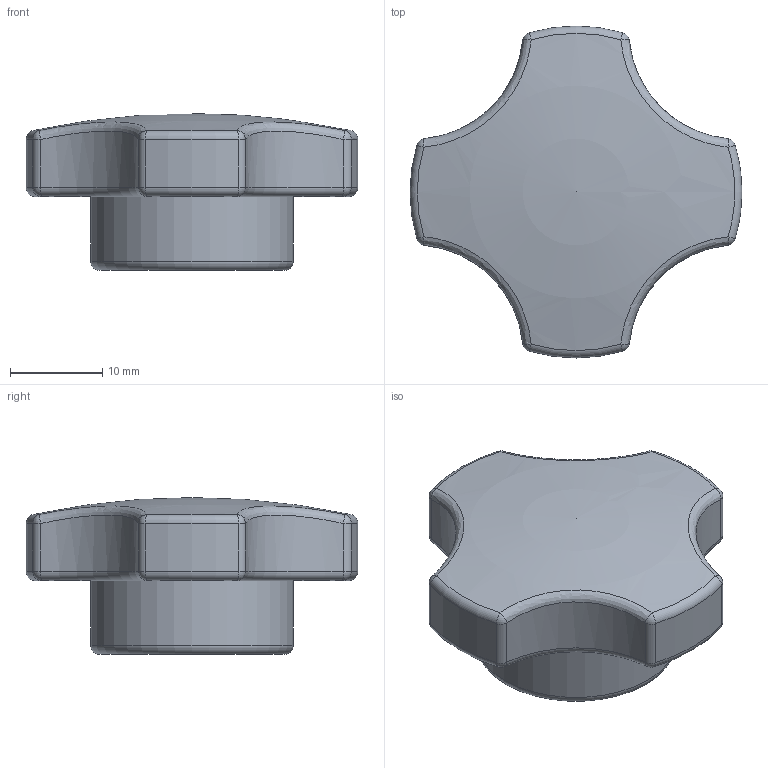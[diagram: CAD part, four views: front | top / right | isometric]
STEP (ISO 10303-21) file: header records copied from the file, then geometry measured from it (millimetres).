
FILE_DESCRIPTION(/* description */ (''),/* implementation_level */ '2;1');
FILE_NAME(/* name */ '\\SYNOLOGYNAS\web\db2\FOKN_M\FOKN-M6\도면\FOKN-M6.stp',/* time_stamp */ '2024-05-01T15:32:04+09:00',/* author */ ('user'),/* organization */ (''),/* preprocessor_version */ 'ST-DEVELOPER v15.6',/* originating_system */ 'Autodesk Inventor 2015',/* authorisation */ '');
FILE_SCHEMA (('AUTOMOTIVE_DESIGN { 1 0 10303 214 3 1 1 }'));
Length unit declared in the file: millimetre
Products named in the file (1): FOKN-M6
Bounding box: 36 x 36 x 17 mm (x, y, z)
Volume: 9254.9 mm3; surface area: 3103.9 mm2
Topology: 1 solids, 1 shells, 55 faces, 109 edges, 56 vertices
Faces by surface type: cylinder 18, sphere 17, torus 13, bspline 4, plane 2, cone 1
Full cylindrical faces by diameter (mm): 4.917 x1, 22 x1
Entity records: 1500 total; most frequent: CARTESIAN_POINT 366, DIRECTION 274, ORIENTED_EDGE 202, AXIS2_PLACEMENT_3D 129, EDGE_CURVE 101, CIRCLE 77, EDGE_LOOP 60, FACE_OUTER_BOUND 55
